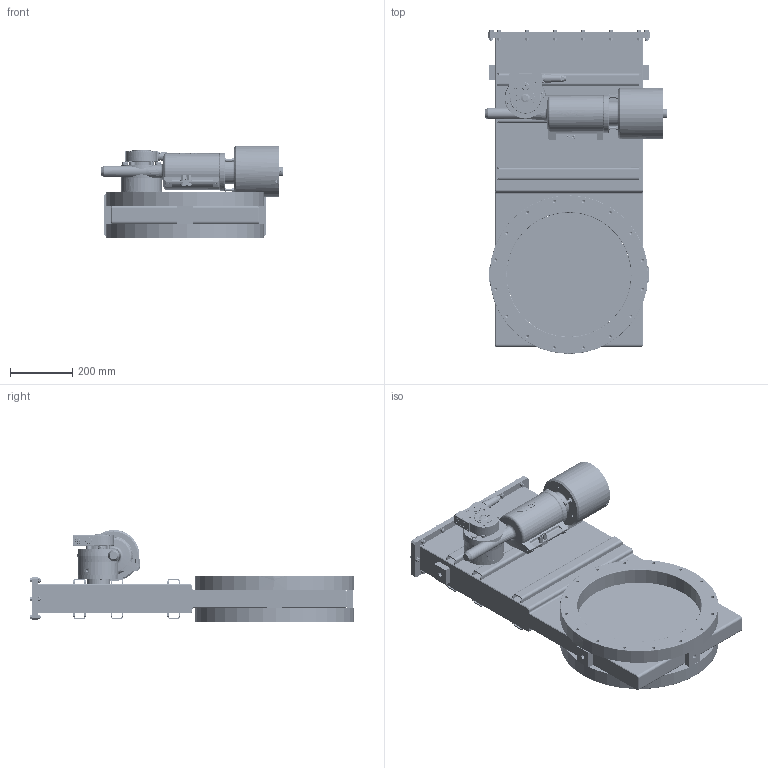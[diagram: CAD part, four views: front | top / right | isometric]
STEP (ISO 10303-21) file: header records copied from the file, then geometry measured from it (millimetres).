
FILE_DESCRIPTION(/* description */ (''),/* implementation_level */ '2;1');
FILE_NAME(/* name */ '1055614320_203.stp',/* time_stamp */ '2020-12-08T13:08:52+01:00',/* author */ (''),/* organization */ (''),/* preprocessor_version */ 'ST-DEVELOPER v16.7',/* originating_system */ 'SIEMENS PLM Software NX 1915',/* authorisation */ '');
FILE_SCHEMA (('AP203_CONFIGURATION_CONTROLLED_3D_DESIGN_OF_MECHANICAL_PARTS_AND_ASSEMBLIES_MIM_LF { 1 0 10303 403 2 1 2}'));
Products named in the file (50): 212392; 212406; 212368.4_30364ID; 212368.4_30362ID; 212368.4_30361ID; 212368.4; 212368.4_30359ID; 212363.2_30357ID; 212363.2_29946ID; 217307.4; 217292.4_29950ID; 217292.4_30356ID; 215241.3; N-7015-015.2; N-5062-002.1; n-7016-010; N-7605-005.1; 93517-01.2; 60538-01_2.1; N-6029-102.1; 60539-01.1; n-8504-002; N-8504-102.3; 60538-01.1; N-6027-015.3; 60532-01_1.2; N-6016-123.1; N-6289-133.2; N-6029-112.1; N-6203-105.1; N-6203-417.1; 230594.2; 230591.1; 230750.3; N-6072-440.1; 230595.2; N-6005-474.1; N-6001-499.1; n-6160-412; N-5021-552.1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
Assembly tree (134 placements, depth 5):
  908703
    237671.1
      N-7605-005.1  x2
      n-7016-010  x2
      N-5062-002.1  x2
      N-7015-015.2  x2
    N-6053-412.2  x17
    N-5021-498.1  x14
    49321-01.6
    87336-01.1  x2
    n-6131-414  x28
    N-5021-552.1  x2
    n-6160-412  x2
    N-6001-499.1  x3
    N-6005-474.1  x8
    230595.2
    N-6072-440.1
    230750.3
    230591.1
    230594.2
    N-6203-417.1
    N-6203-105.1
    N-6029-112.1  x2
    N-6289-133.2
    N-6016-123.1  x4
    60532-01_1.2  x2
    N-6027-015.3  x2
    60538-01.1
    N-8504-102.3
    n-8504-002
    60539-01.1
    N-6029-102.1  x2
    60538-01_2.1
    93517-01.2
    215439.12_MODEL
      215241.3
      217292.4_30356ID
      217292.4_29950ID
      215243_MODEL
        230294
          212363.2_29946ID
          212363.2_30357ID
          212368.4_30359ID
          212368.4  x2
          212368.4_30361ID
          212368.4_30362ID
          212368.4_30364ID
          212406  x2
          212392
      217307.4  x5
Bounding box: 587.15 x 1041.84 x 296.5 mm (x, y, z)
Volume: 23154782.3 mm3; surface area: 4303572.6 mm2
Topology: 198 solids, 198 shells, 3522 faces, 7880 edges, 5066 vertices
Faces by surface type: plane 1813, cylinder 1100, cone 396, bspline 141, torus 56, extrusion 12, sphere 4
Full cylindrical faces by diameter (mm): 1.3 x2, 1.5 x7, 1.6 x2, 1.66 x7, 1.8 x8, 2 x24, 2.2 x2, 2.25 x20, 2.45 x20, 2.5 x1, 2.55 x4, 2.657 x1, 2.9 x4, 3 x12, 3.025 x8, 3.07 x12, 3.2 x8, 3.251 x1, 3.26 x4, 3.28 x8, 3.3 x12, 3.6 x2, 3.85 x4, 4 x9, 4.16 x1, 4.2 x3, 4.55 x8, 4.96 x8, 5 x20, 5.05 x2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
Entity records: 67397 total; most frequent: CARTESIAN_POINT 14928, DIRECTION 9728, ORIENTED_EDGE 8108, EDGE_CURVE 4054, AXIS2_PLACEMENT_3D 3900, EDGE_LOOP 3152, VERTEX_POINT 3021, ADVANCED_FACE 2060
